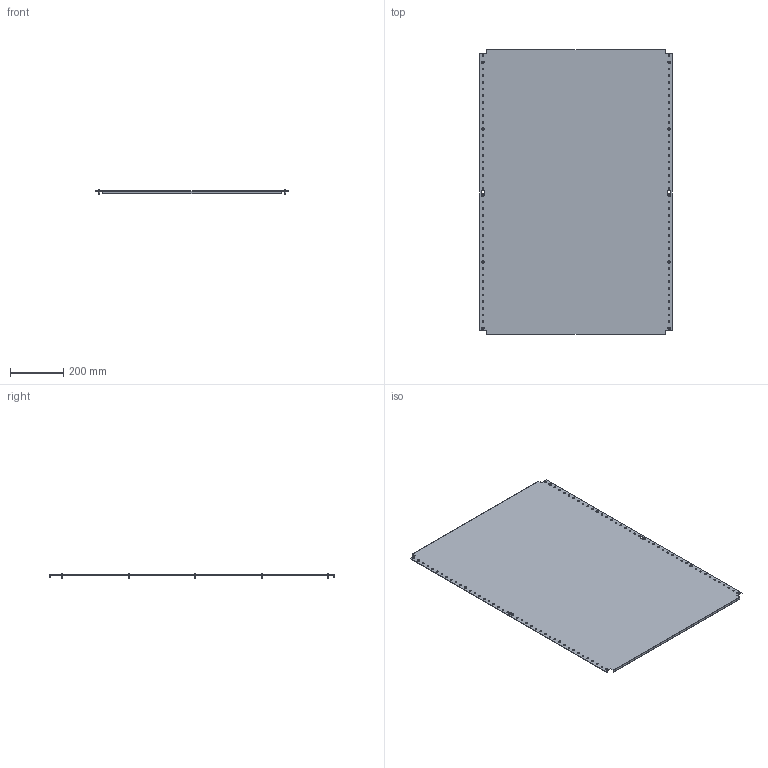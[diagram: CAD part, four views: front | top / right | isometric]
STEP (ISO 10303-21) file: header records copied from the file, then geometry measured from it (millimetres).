
FILE_DESCRIPTION (( 'STEP AP203' ), '1' );
FILE_NAME ('R6MP1280.STEP', '2025-03-28T12:06:38', ( '' ), ( '' ), 'SwSTEP 2.0', 'SolidWorks 2022', '' );
FILE_SCHEMA (( 'CONFIG_CONTROL_DESIGN' ));
Length unit declared in the file: millimetre
Products named in the file (3): RB.3293.00.00.0_-08; M5x12 DIN 7500 C Torx Zinc_stright; R6MP1280
Assembly tree (11 placements, depth 2):
  R6MP1280
    RB.3293.00.00.0_-08
    M5x12 DIN 7500 C Torx Zinc_stright  x10
Bounding box: 725 x 1070 x 15.56 mm (x, y, z)
Volume: 1411971.8 mm3; surface area: 1578155.3 mm2
Topology: 11 solids, 11 shells, 278 faces, 648 edges, 402 vertices
Faces by surface type: plane 110, cylinder 108, torus 20, cone 20, sphere 10, bspline 10
Full cylindrical faces by diameter (mm): 5 x10, 6.5 x84, 9.5 x10
Entity records: 5061 total; most frequent: CARTESIAN_POINT 882, DIRECTION 760, ORIENTED_EDGE 568, EDGE_LOOP 398, AXIS2_PLACEMENT_3D 336, EDGE_CURVE 284, VERTEX_POINT 246, FACE_OUTER_BOUND 224
